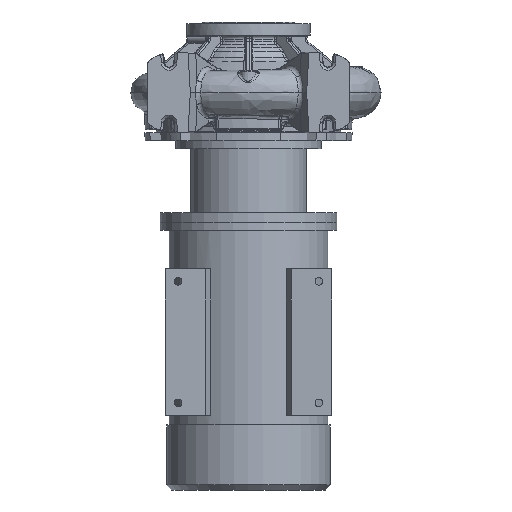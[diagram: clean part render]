
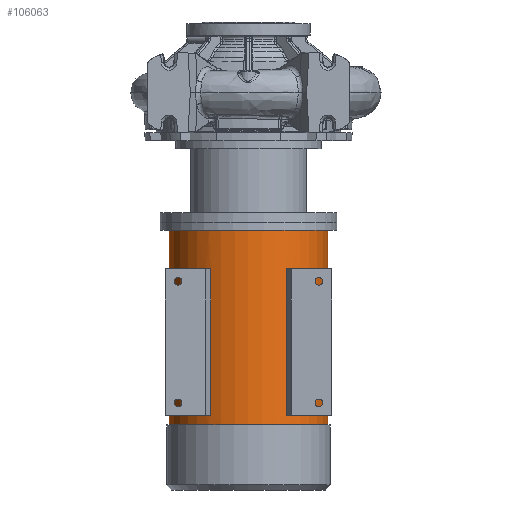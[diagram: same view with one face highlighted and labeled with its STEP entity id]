
A CAD part, front view. The second image highlights one B-rep face of the part: STEP entity #106063.
In plain terms, the highlighted cylindrical face has radius 157.5 mm (diameter 315 mm), a partial arc.
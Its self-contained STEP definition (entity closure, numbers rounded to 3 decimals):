
#1461 = VERTEX_POINT ( 'NONE', #24662 ) ;
#1680 = EDGE_CURVE ( 'NONE', #3522, #48648, #72254, .T. ) ;
#3522 = VERTEX_POINT ( 'NONE', #68158 ) ;
#3669 = CARTESIAN_POINT ( 'NONE',  ( -157.5, 0., -659.427 ) ) ;
#4563 = EDGE_CURVE ( 'NONE', #1461, #7193, #49093, .T. ) ;
#4894 = ORIENTED_EDGE ( 'NONE', *, *, #86196, .T. ) ;
#4982 = CARTESIAN_POINT ( 'NONE',  ( -157.5, 0., -788.427 ) ) ;
#5206 = DIRECTION ( 'NONE',  ( 0., 0., -1. ) ) ;
#7193 = VERTEX_POINT ( 'NONE', #9583 ) ;
#9195 = LINE ( 'NONE', #29920, #101720 ) ;
#9583 = CARTESIAN_POINT ( 'NONE',  ( -86.091, -131.889, -349.927 ) ) ;
#10371 = ORIENTED_EDGE ( 'NONE', *, *, #25422, .F. ) ;
#10527 = DIRECTION ( 'NONE',  ( 0., 0., -1. ) ) ;
#11578 = LINE ( 'NONE', #111072, #89997 ) ;
#11805 = FACE_BOUND ( 'NONE', #101954, .T. ) ;
#12125 = CARTESIAN_POINT ( 'NONE',  ( 157.5, 0., -273.427 ) ) ;
#12963 = EDGE_CURVE ( 'NONE', #44562, #48648, #43695, .T. ) ;
#13156 = EDGE_CURVE ( 'NONE', #3522, #111405, #11578, .T. ) ;
#13515 = ORIENTED_EDGE ( 'NONE', *, *, #12963, .T. ) ;
#14263 = CARTESIAN_POINT ( 'NONE',  ( 86.091, -131.889, -349.927 ) ) ;
#15052 = ORIENTED_EDGE ( 'NONE', *, *, #81540, .F. ) ;
#15292 = CIRCLE ( 'NONE', #54067, 157.5 ) ;
#16022 = ORIENTED_EDGE ( 'NONE', *, *, #89640, .F. ) ;
#16320 = AXIS2_PLACEMENT_3D ( 'NONE', #18765, #10527, #101382 ) ;
#17057 = VECTOR ( 'NONE', #71632, 1000. ) ;
#18765 = CARTESIAN_POINT ( 'NONE',  ( 0., 0., -788.427 ) ) ;
#20436 = DIRECTION ( 'NONE',  ( -1., 0., 0. ) ) ;
#22001 = VERTEX_POINT ( 'NONE', #93482 ) ;
#23052 = DIRECTION ( 'NONE',  ( -1., 0., 0. ) ) ;
#24357 = CIRCLE ( 'NONE', #61622, 157.5 ) ;
#24404 = FACE_OUTER_BOUND ( 'NONE', #59616, .T. ) ;
#24662 = CARTESIAN_POINT ( 'NONE',  ( -74.479, -138.777, -349.927 ) ) ;
#25422 = EDGE_CURVE ( 'NONE', #49166, #52150, #90309, .T. ) ;
#25511 = CARTESIAN_POINT ( 'NONE',  ( -86.091, -131.889, -788.427 ) ) ;
#26256 = CARTESIAN_POINT ( 'NONE',  ( -157.5, 0., -273.427 ) ) ;
#29255 = AXIS2_PLACEMENT_3D ( 'NONE', #113839, #41079, #23052 ) ;
#29920 = CARTESIAN_POINT ( 'NONE',  ( -74.479, -138.777, -788.427 ) ) ;
#32799 = DIRECTION ( 'NONE',  ( 0., 0., -1. ) ) ;
#33299 = VECTOR ( 'NONE', #32799, 1000. ) ;
#33414 = CARTESIAN_POINT ( 'NONE',  ( 157.5, 0., -659.427 ) ) ;
#34290 = ORIENTED_EDGE ( 'NONE', *, *, #70850, .T. ) ;
#40639 = DIRECTION ( 'NONE',  ( 0., 0., 1. ) ) ;
#41079 = DIRECTION ( 'NONE',  ( 0., 0., -1. ) ) ;
#42007 = DIRECTION ( 'NONE',  ( 0., 0., -1. ) ) ;
#42030 = DIRECTION ( 'NONE',  ( -1., 0., 0. ) ) ;
#43695 = LINE ( 'NONE', #90746, #17057 ) ;
#44367 = CARTESIAN_POINT ( 'NONE',  ( 0., 0., -349.927 ) ) ;
#44562 = VERTEX_POINT ( 'NONE', #14263 ) ;
#45180 = DIRECTION ( 'NONE',  ( 0., 0., -1. ) ) ;
#46205 = VERTEX_POINT ( 'NONE', #3669 ) ;
#46907 = FACE_BOUND ( 'NONE', #75910, .T. ) ;
#48323 = ORIENTED_EDGE ( 'NONE', *, *, #13156, .T. ) ;
#48648 = VERTEX_POINT ( 'NONE', #98397 ) ;
#49093 = CIRCLE ( 'NONE', #59489, 157.5 ) ;
#49166 = VERTEX_POINT ( 'NONE', #12125 ) ;
#49407 = DIRECTION ( 'NONE',  ( -1., 0., 0. ) ) ;
#50274 = CARTESIAN_POINT ( 'NONE',  ( 0., 0., -659.427 ) ) ;
#50765 = ORIENTED_EDGE ( 'NONE', *, *, #85275, .F. ) ;
#52150 = VERTEX_POINT ( 'NONE', #33414 ) ;
#52861 = DIRECTION ( 'NONE',  ( 1., 0., 0. ) ) ;
#52931 = DIRECTION ( 'NONE',  ( 0., 0., -1. ) ) ;
#54067 = AXIS2_PLACEMENT_3D ( 'NONE', #50274, #5206, #42030 ) ;
#54571 = CIRCLE ( 'NONE', #29255, 157.5 ) ;
#59489 = AXIS2_PLACEMENT_3D ( 'NONE', #79504, #106466, #52861 ) ;
#59616 = EDGE_LOOP ( 'NONE', ( #10371, #75659, #4894, #50765 ) ) ;
#60663 = CIRCLE ( 'NONE', #74933, 157.5 ) ;
#61622 = AXIS2_PLACEMENT_3D ( 'NONE', #44367, #89370, #20436 ) ;
#62797 = CARTESIAN_POINT ( 'NONE',  ( 157.5, 0., -788.427 ) ) ;
#63057 = VERTEX_POINT ( 'NONE', #102153 ) ;
#64501 = AXIS2_PLACEMENT_3D ( 'NONE', #95139, #102625, #49407 ) ;
#65002 = EDGE_CURVE ( 'NONE', #63057, #22001, #60663, .T. ) ;
#65471 = CARTESIAN_POINT ( 'NONE',  ( 74.479, -138.777, -349.927 ) ) ;
#67802 = ORIENTED_EDGE ( 'NONE', *, *, #1680, .F. ) ;
#68158 = CARTESIAN_POINT ( 'NONE',  ( 74.479, -138.777, -639.927 ) ) ;
#70850 = EDGE_CURVE ( 'NONE', #111405, #44562, #24357, .T. ) ;
#71632 = DIRECTION ( 'NONE',  ( 0., 0., -1. ) ) ;
#72254 = CIRCLE ( 'NONE', #64501, 157.5 ) ;
#74933 = AXIS2_PLACEMENT_3D ( 'NONE', #95985, #42007, #79201 ) ;
#75659 = ORIENTED_EDGE ( 'NONE', *, *, #99222, .T. ) ;
#75910 = EDGE_LOOP ( 'NONE', ( #67802, #48323, #34290, #13515 ) ) ;
#79201 = DIRECTION ( 'NONE',  ( 1., 0., 0. ) ) ;
#79504 = CARTESIAN_POINT ( 'NONE',  ( 0., 0., -349.927 ) ) ;
#81540 = EDGE_CURVE ( 'NONE', #63057, #1461, #9195, .T. ) ;
#82750 = VECTOR ( 'NONE', #52931, 1000. ) ;
#83286 = VECTOR ( 'NONE', #45180, 1000. ) ;
#85275 = EDGE_CURVE ( 'NONE', #52150, #46205, #15292, .T. ) ;
#86196 = EDGE_CURVE ( 'NONE', #105714, #46205, #107527, .T. ) ;
#89370 = DIRECTION ( 'NONE',  ( 0., 0., 1. ) ) ;
#89640 = EDGE_CURVE ( 'NONE', #7193, #22001, #114947, .T. ) ;
#89997 = VECTOR ( 'NONE', #40639, 1000. ) ;
#90309 = LINE ( 'NONE', #62797, #83286 ) ;
#90746 = CARTESIAN_POINT ( 'NONE',  ( 86.091, -131.889, -788.427 ) ) ;
#93482 = CARTESIAN_POINT ( 'NONE',  ( -86.091, -131.889, -639.927 ) ) ;
#95139 = CARTESIAN_POINT ( 'NONE',  ( 0., 0., -639.927 ) ) ;
#95985 = CARTESIAN_POINT ( 'NONE',  ( 0., 0., -639.927 ) ) ;
#98397 = CARTESIAN_POINT ( 'NONE',  ( 86.091, -131.889, -639.927 ) ) ;
#99222 = EDGE_CURVE ( 'NONE', #49166, #105714, #54571, .T. ) ;
#101382 = DIRECTION ( 'NONE',  ( -1., 0., 0. ) ) ;
#101468 = CYLINDRICAL_SURFACE ( 'NONE', #16320, 157.5 ) ;
#101720 = VECTOR ( 'NONE', #110535, 1000. ) ;
#101954 = EDGE_LOOP ( 'NONE', ( #15052, #110694, #16022, #109355 ) ) ;
#102153 = CARTESIAN_POINT ( 'NONE',  ( -74.479, -138.777, -639.927 ) ) ;
#102625 = DIRECTION ( 'NONE',  ( 0., 0., 1. ) ) ;
#105714 = VERTEX_POINT ( 'NONE', #26256 ) ;
#106063 = ADVANCED_FACE ( 'NONE', ( #24404, #46907, #11805 ), #101468, .T. ) ;
#106466 = DIRECTION ( 'NONE',  ( 0., 0., -1. ) ) ;
#107527 = LINE ( 'NONE', #4982, #33299 ) ;
#109355 = ORIENTED_EDGE ( 'NONE', *, *, #4563, .F. ) ;
#110535 = DIRECTION ( 'NONE',  ( 0., 0., 1. ) ) ;
#110694 = ORIENTED_EDGE ( 'NONE', *, *, #65002, .T. ) ;
#111072 = CARTESIAN_POINT ( 'NONE',  ( 74.479, -138.777, -788.427 ) ) ;
#111405 = VERTEX_POINT ( 'NONE', #65471 ) ;
#113839 = CARTESIAN_POINT ( 'NONE',  ( 0., 0., -273.427 ) ) ;
#114947 = LINE ( 'NONE', #25511, #82750 ) ;
